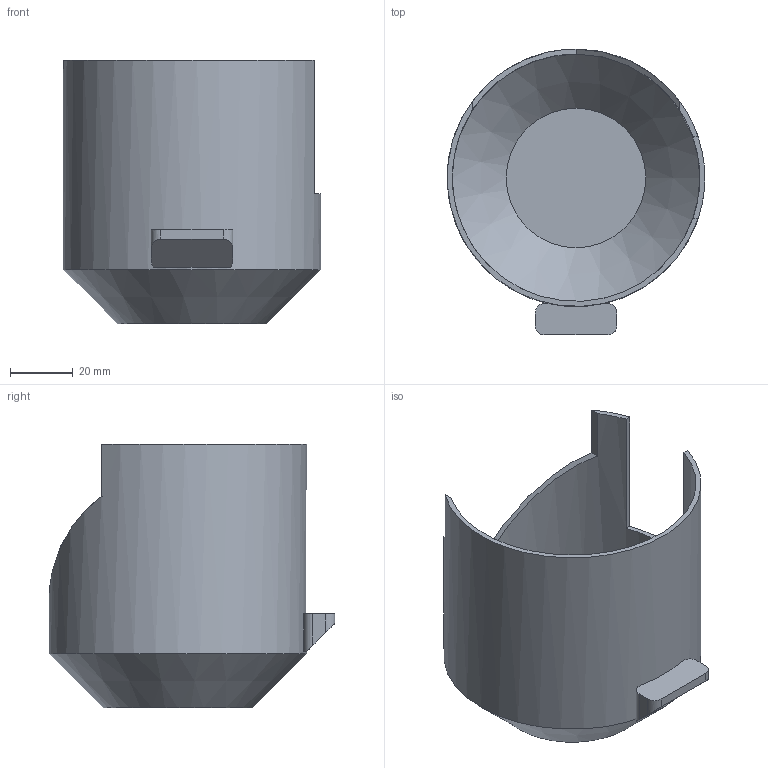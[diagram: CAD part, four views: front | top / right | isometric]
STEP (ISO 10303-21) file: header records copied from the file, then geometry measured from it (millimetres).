
FILE_DESCRIPTION(('Open CASCADE Model'),'2;1');
FILE_NAME('Open CASCADE Shape Model','2026-08-23T09:31:25',('Author'),( 'Open CASCADE'),'Open CASCADE STEP processor 7.9','Open CASCADE 7.9' ,'Unknown');
FILE_SCHEMA(('AUTOMOTIVE_DESIGN { 1 0 10303 214 1 1 1 1 }'));
Length unit declared in the file: millimetre
Products named in the file (2): =>[0:1:1:2]; COMPOUND
Assembly tree (1 placements, depth 2):
  =>[0:1:1:2]
    COMPOUND
Bounding box: 82 x 91 x 84 mm (x, y, z)
Volume: 41751.3 mm3; surface area: 40231 mm2
Topology: 1 solids, 1 shells, 28 faces, 73 edges, 48 vertices
Faces by surface type: plane 20, cylinder 6, cone 2
Full cylindrical faces by diameter (mm): 78.8 x1, 82 x1
Entity records: 1880 total; most frequent: CARTESIAN_POINT 412, DIRECTION 261, ORIENTED_EDGE 146, PCURVE 146, DEFINITIONAL_REPRESENTATION 146, LINE 117, VECTOR 117, EDGE_CURVE 73
